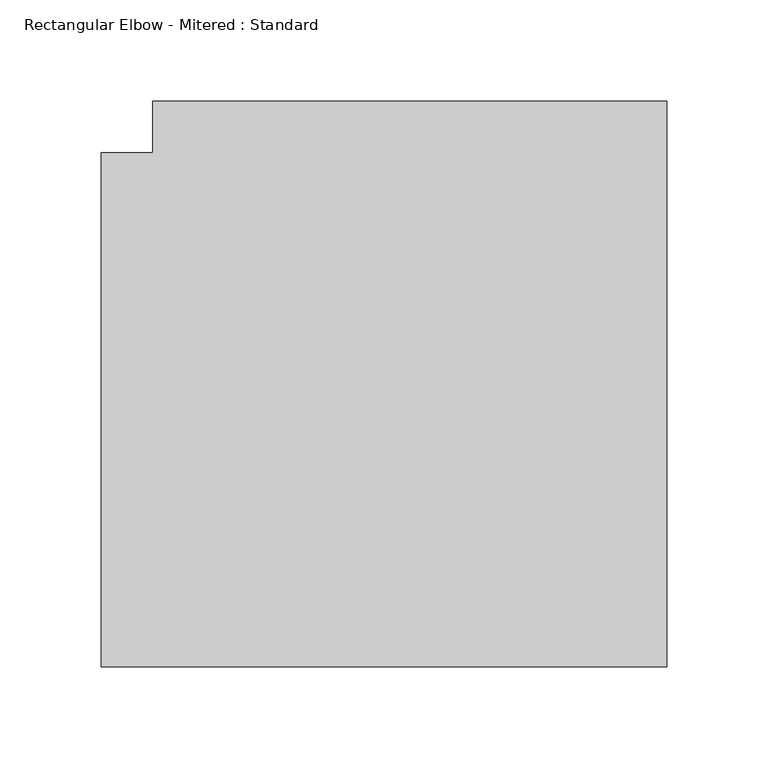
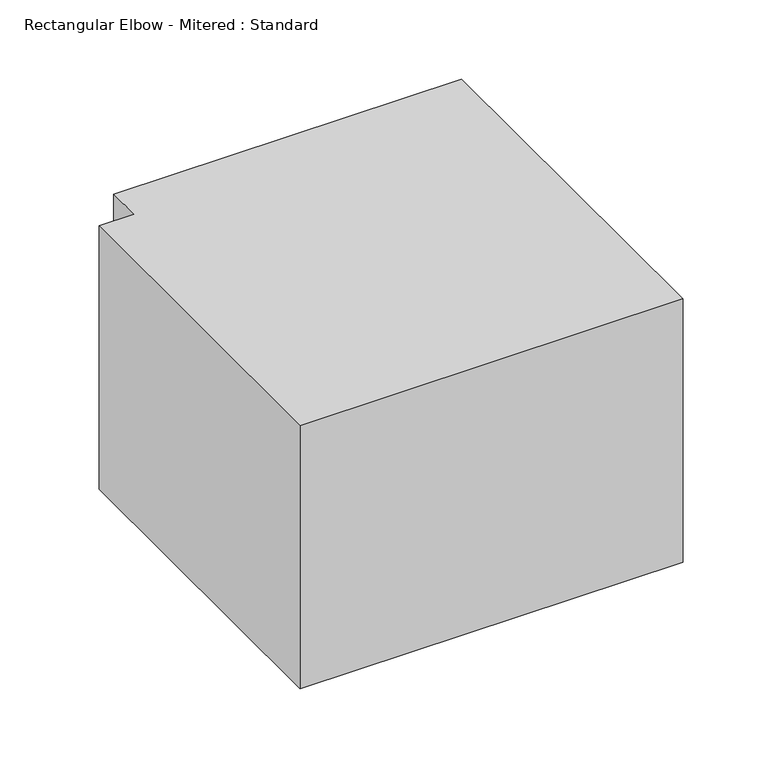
"""IFC4 building model written with IfcOpenShell, lengths in millimetres: duct fitting geometry, Rectangular Elbow - Mitered : Standard."""

from ifc_helpers import new_model, si_unit, frame, origin, place, context, project, spatial, polyline, outline, extrude, source, transform, mapped, element, save


def rectangular_elbow_mitered_standard_f09b78ec(model_context):
    return source(origin(), model_context, "Body", "SweptSolid", [
        extrude(outline(polyline([(-152.4, -127.0), (-152.4, 127.0), (-127.0, 127.0), (-127.0, 152.4), (127.0, 152.4), (127.0, -127.0), (-152.4, -127.0)])), frame((0.0, 0.0, -101.6), z_axis=(0.0, 0.0, 1.0), x_axis=(1.0, 0.0, 0.0)), (0.0, 0.0, 1.0), 203.2),
    ])


if __name__ == "__main__":
    model = new_model("IFC4")
    model_context = context("Model", 3, world=origin())
    ifc_project = project(units=[si_unit("LENGTHUNIT", "METRE", prefix="MILLI")], contexts=[model_context])
    site = spatial("IfcSite", under=ifc_project)
    building = spatial("IfcBuilding", under=site)
    placement = place(None, origin())
    rectangular_elbow_mitered_standard_shape = rectangular_elbow_mitered_standard_f09b78ec(model_context)
    element("IfcDuctFitting", 1, ObjectType="Rectangular Elbow - Mitered : Standard", at=placement, inside=building, context=model_context, shape_type="MappedRepresentation", body=[
        mapped(rectangular_elbow_mitered_standard_shape, transform((0.0, 0.0, 0.0), x_axis=(1.0, 0.0, 0.0), y_axis=(0.0, 1.0, 0.0), z_axis=(0.0, 0.0, 1.0))),
    ])
    save(model, "model.ifc")
